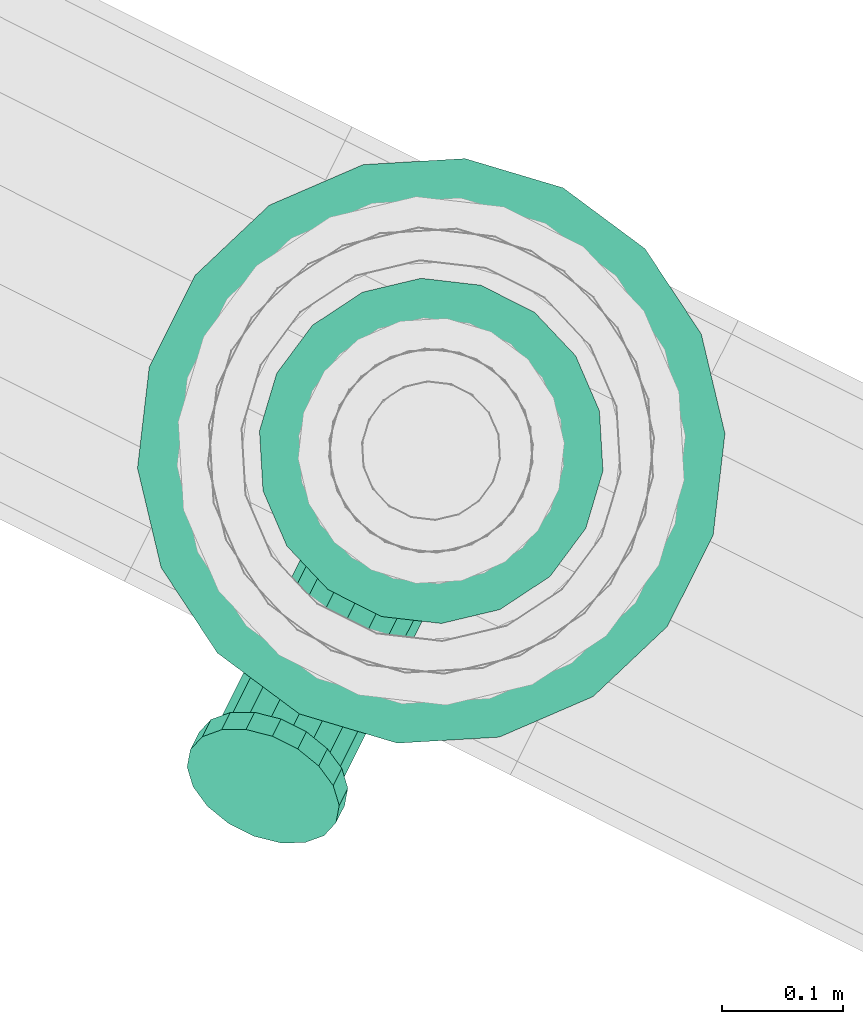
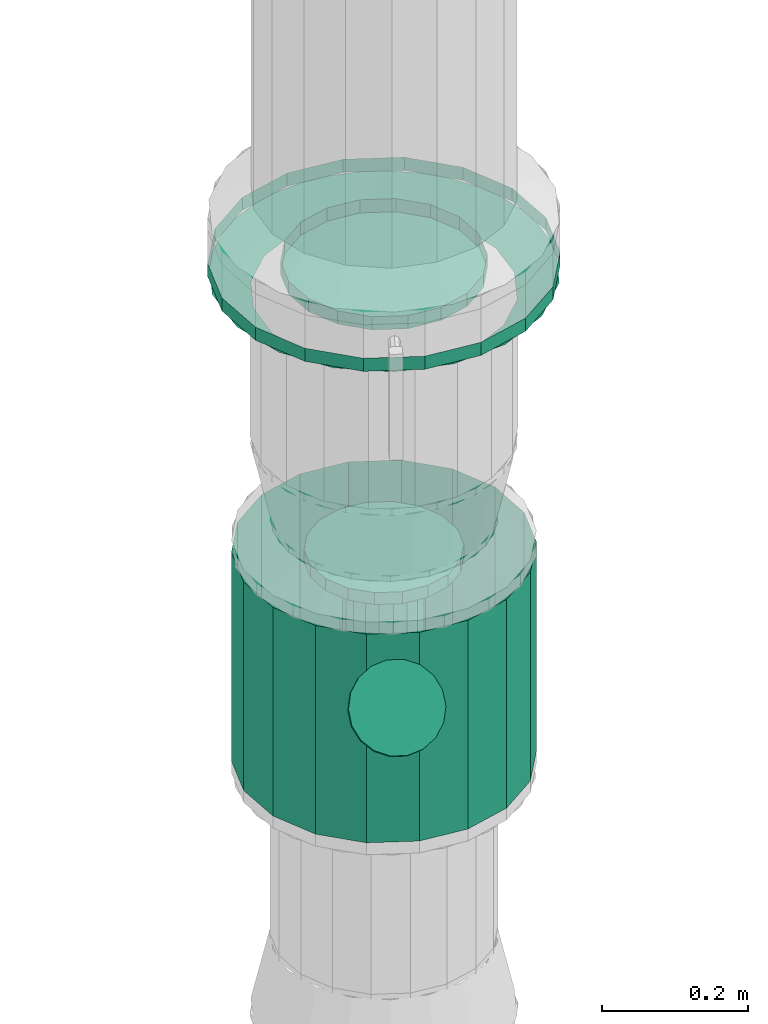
# One storey, part 63 of 152: 1 distribution control element, 1 flow fitting.
"""IFC2X3 building model written with IfcOpenShell, lengths in metres."""

from ifc_helpers import new_model, si_unit, derived_unit, direction, frame, origin, place, context, subcontext, project, spatial, face_set, surface_model, source, transform, mapped, material, type_object, type_shapes, element, save


model = new_model("IFC2X3")

# Units and contexts
model_context = context("Model", 3, precision=5.2338327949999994e-05, world=origin(), true_north=direction((0.0, 1.0)))
body_context = subcontext(model_context, "Body", "Model", "MODEL_VIEW")
ifc_project = project(units=[si_unit("LENGTHUNIT", "METRE"), si_unit("AREAUNIT", "SQUARE_METRE"), si_unit("VOLUMEUNIT", "CUBIC_METRE"), si_unit("MASSUNIT", "GRAM", prefix="KILO"), si_unit("PLANEANGLEUNIT", "RADIAN"), derived_unit("THERMALTRANSMITTANCEUNIT", [(si_unit("MASSUNIT", "GRAM", prefix="KILO"), 1), (si_unit("THERMODYNAMICTEMPERATUREUNIT", "KELVIN"), -1), (si_unit("TIMEUNIT", "SECOND"), -3)])], contexts=[model_context])

# Site, building, storey
site_placement = place(None, frame((0.0, 0.0, 0.0), z_axis=(0.0, 0.0, 1.0), x_axis=(0.8939966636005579, -0.4480736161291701, 0.0)))
site = spatial("IfcSite", under=ifc_project, at=site_placement, Name="Default", CompositionType="ELEMENT")
building_placement = place(site_placement, origin())
building = spatial("IfcBuilding", under=site, at=building_placement, CompositionType="ELEMENT")
storey_placement = place(building_placement, frame((0.0, 0.0, 2.7499999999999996)))
storey = spatial("IfcBuildingStorey", under=building, at=storey_placement, Name="1. Obergeschoss", CompositionType="ELEMENT", Elevation=2.7499999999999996)

# Flow fitting
ifc_material = material(Name="IfcSurfaceStyle #1741")
distribution_element_type_1 = type_object("IfcDistributionElementType", Name="Flansch 614651:Flansch 614651", material=ifc_material)
shared_shape_1 = source(origin(), body_context, "Body", "SurfaceModel", [
    surface_model("IfcFaceBasedSurfaceModel", [(25.58235543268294, 8.459715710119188, 4.349183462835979), (25.573761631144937, 8.410977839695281, 4.349183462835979), (25.573761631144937, 8.410977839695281, 4.327183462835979), (25.58235543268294, 8.459715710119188, 4.327183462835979), (25.549016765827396, 8.368118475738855, 4.349183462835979), (25.549016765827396, 8.368118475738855, 4.327183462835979), (25.511105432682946, 8.336307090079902, 4.349183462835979), (25.511105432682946, 8.336307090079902, 4.327183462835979), (25.46460029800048, 8.319380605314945, 4.349183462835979), (25.46460029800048, 8.319380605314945, 4.327183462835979), (25.415110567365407, 8.319380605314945, 4.349183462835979), (25.415110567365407, 8.319380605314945, 4.327183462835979), (25.36860543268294, 8.336307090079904, 4.349183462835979), (25.36860543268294, 8.336307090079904, 4.327183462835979), (25.33069409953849, 8.368118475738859, 4.349183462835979), (25.33069409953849, 8.368118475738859, 4.327183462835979), (25.30594923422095, 8.410977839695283, 4.349183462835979), (25.30594923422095, 8.410977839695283, 4.327183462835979), (25.29735543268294, 8.45971571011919, 4.349183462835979), (25.29735543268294, 8.45971571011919, 4.327183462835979), (25.30594923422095, 8.508453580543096, 4.349183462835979), (25.30594923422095, 8.508453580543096, 4.327183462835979), (25.33069409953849, 8.551312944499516, 4.349183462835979), (25.33069409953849, 8.551312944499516, 4.327183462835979), (25.368605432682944, 8.583124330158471, 4.349183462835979), (25.368605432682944, 8.583124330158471, 4.327183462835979), (25.41511056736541, 8.600050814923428, 4.349183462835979), (25.41511056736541, 8.600050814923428, 4.327183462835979), (25.464600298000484, 8.600050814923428, 4.349183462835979), (25.464600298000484, 8.600050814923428, 4.327183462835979), (25.511105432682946, 8.583124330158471, 4.349183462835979), (25.511105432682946, 8.583124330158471, 4.327183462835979), (25.549016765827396, 8.551312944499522, 4.349183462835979), (25.549016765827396, 8.551312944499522, 4.327183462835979), (25.57376163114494, 8.508453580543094, 4.349183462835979), (25.57376163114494, 8.508453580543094, 4.327183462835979), (25.439855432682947, 8.459715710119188, 4.327183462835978), (25.43985543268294, 8.36771571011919, 4.327183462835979), (25.408389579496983, 8.373263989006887, 4.327183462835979), (25.41107443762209, 8.380640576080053, 4.29418346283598), (25.439855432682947, 8.375565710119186, 4.29418346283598), (25.38071897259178, 8.38923962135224, 4.327183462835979), (25.38576485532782, 8.395253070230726, 4.29418346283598), (25.360181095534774, 8.413715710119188, 4.327183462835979), (25.36697939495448, 8.41764071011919, 4.29418346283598), (25.349253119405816, 8.443740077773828, 4.327183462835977), (25.356983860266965, 8.445103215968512, 4.294183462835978), (25.349253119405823, 8.475691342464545, 4.32718346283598), (25.356983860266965, 8.474328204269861, 4.2941834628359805), (25.360181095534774, 8.50571571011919, 4.327183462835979), (25.36697939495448, 8.50179071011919, 4.29418346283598), (25.38071897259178, 8.530191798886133, 4.327183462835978), (25.385764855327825, 8.52417835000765, 4.294183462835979), (25.408389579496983, 8.546167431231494, 4.327183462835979), (25.411074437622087, 8.538790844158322, 4.29418346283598), (25.43985543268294, 8.551715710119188, 4.327183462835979), (25.439855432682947, 8.543865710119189, 4.29418346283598), (25.471321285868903, 8.546167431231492, 4.327183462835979), (25.4686364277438, 8.53879084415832, 4.29418346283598), (25.498991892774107, 8.53019179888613, 4.327183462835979), (25.493946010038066, 8.524178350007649, 4.29418346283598), (25.519529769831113, 8.505715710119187, 4.327183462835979), (25.512731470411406, 8.501790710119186, 4.29418346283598), (25.530457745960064, 8.475691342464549, 4.327183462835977), (25.522727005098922, 8.474328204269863, 4.294183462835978), (25.530457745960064, 8.443740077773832, 4.327183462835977), (25.522727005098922, 8.445103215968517, 4.294183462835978), (25.519529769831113, 8.413715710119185, 4.327183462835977), (25.512731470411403, 8.417640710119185, 4.294183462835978), (25.498991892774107, 8.389239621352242, 4.327183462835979), (25.493946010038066, 8.395253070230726, 4.29418346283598), (25.471321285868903, 8.373263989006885, 4.327183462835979), (25.4686364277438, 8.380640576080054, 4.29418346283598), (25.682355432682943, 8.459715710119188, 4.349183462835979), (25.667730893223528, 8.376775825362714, 4.349183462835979), (25.667730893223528, 8.376775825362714, 4.327183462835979), (25.682355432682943, 8.459715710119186, 4.327183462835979), (25.625621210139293, 8.303839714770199, 4.349183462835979), (25.625621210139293, 8.303839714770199, 4.327183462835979), (25.561105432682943, 8.249704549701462, 4.349183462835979), (25.561105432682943, 8.249704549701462, 4.327183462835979), (25.48196511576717, 8.22089983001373, 4.349183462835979), (25.48196511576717, 8.22089983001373, 4.327183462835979), (25.397745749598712, 8.22089983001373, 4.349183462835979), (25.397745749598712, 8.22089983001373, 4.327183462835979), (25.318605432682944, 8.249704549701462, 4.349183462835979), (25.318605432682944, 8.249704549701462, 4.327183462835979), (25.254089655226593, 8.303839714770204, 4.349183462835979), (25.254089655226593, 8.303839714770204, 4.327183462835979), (25.21197997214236, 8.376775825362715, 4.349183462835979), (25.21197997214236, 8.376775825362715, 4.327183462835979), (25.197355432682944, 8.45971571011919, 4.349183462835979), (25.197355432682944, 8.45971571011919, 4.327183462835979), (25.21197997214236, 8.542655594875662, 4.349183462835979), (25.21197997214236, 8.542655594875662, 4.327183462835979), (25.254089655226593, 8.615591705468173, 4.349183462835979), (25.254089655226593, 8.615591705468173, 4.327183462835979), (25.318605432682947, 8.669726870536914, 4.349183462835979), (25.318605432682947, 8.669726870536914, 4.327183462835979), (25.397745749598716, 8.698531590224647, 4.349183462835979), (25.397745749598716, 8.698531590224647, 4.327183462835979), (25.481965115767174, 8.698531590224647, 4.349183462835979), (25.481965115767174, 8.698531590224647, 4.327183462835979), (25.561105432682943, 8.669726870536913, 4.349183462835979), (25.561105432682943, 8.669726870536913, 4.327183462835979), (25.625621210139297, 8.615591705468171, 4.349183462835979), (25.625621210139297, 8.615591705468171, 4.327183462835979), (25.667730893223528, 8.542655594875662, 4.349183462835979), (25.667730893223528, 8.542655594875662, 4.327183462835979), (25.43985543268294, 8.217215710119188, 4.327183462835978), (25.35691554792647, 8.231840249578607, 4.327183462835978), (25.376872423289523, 8.286671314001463, 4.294183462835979), (25.43985543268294, 8.275565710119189, 4.294183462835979), (25.283979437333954, 8.273949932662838, 4.327183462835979), (25.321486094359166, 8.31864862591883, 4.29418346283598), (25.229844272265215, 8.33846571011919, 4.327183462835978), (25.28037685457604, 8.367640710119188, 4.294183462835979), (25.20103955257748, 8.417606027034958, 4.327183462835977), (25.258503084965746, 8.427738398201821, 4.294183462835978), (25.201039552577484, 8.501825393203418, 4.327183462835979), (25.258503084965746, 8.491693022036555, 4.29418346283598), (25.22984427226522, 8.58096571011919, 4.327183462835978), (25.280376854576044, 8.551790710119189, 4.294183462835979), (25.283979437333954, 8.645481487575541, 4.327183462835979), (25.32148609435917, 8.600782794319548, 4.29418346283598), (25.35691554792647, 8.687591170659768, 4.327183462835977), (25.376872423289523, 8.632760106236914, 4.294183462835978), (25.43985543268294, 8.702215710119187, 4.327183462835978), (25.439855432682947, 8.643865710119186, 4.294183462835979), (25.522795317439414, 8.687591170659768, 4.327183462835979), (25.502838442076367, 8.632760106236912, 4.29418346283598), (25.59573142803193, 8.645481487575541, 4.327183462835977), (25.55822477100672, 8.600782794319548, 4.294183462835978), (25.64986659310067, 8.580965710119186, 4.327183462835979), (25.599334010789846, 8.55179071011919, 4.29418346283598), (25.678671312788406, 8.501825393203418, 4.327183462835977), (25.621207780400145, 8.491693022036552, 4.294183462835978), (25.678671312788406, 8.417606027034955, 4.327183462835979), (25.621207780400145, 8.427738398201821, 4.29418346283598), (25.64986659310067, 8.338465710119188, 4.327183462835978), (25.599334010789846, 8.367640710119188, 4.294183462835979), (25.595731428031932, 8.273949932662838, 4.327183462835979), (25.55822477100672, 8.318648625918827, 4.29418346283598), (25.522795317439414, 8.231840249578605, 4.327183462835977), (25.502838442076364, 8.286671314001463, 4.294183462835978)], [face_set([[[0, 1, 2, 3]], [[1, 4, 5, 2]], [[4, 6, 7, 5]], [[6, 8, 9, 7]], [[8, 10, 11, 9]], [[10, 12, 13, 11]], [[12, 14, 15, 13]], [[14, 16, 17, 15]], [[16, 18, 19, 17]], [[18, 20, 21, 19]], [[20, 22, 23, 21]], [[22, 24, 25, 23]], [[24, 26, 27, 25]], [[26, 28, 29, 27]], [[28, 30, 31, 29]], [[30, 32, 33, 31]], [[32, 34, 35, 33]], [[34, 0, 3, 35]], [[36, 35, 3]], [[36, 33, 35]], [[36, 31, 33]], [[36, 29, 31]], [[36, 27, 29]], [[36, 25, 27]], [[36, 23, 25]], [[36, 21, 23]], [[36, 19, 21]], [[36, 17, 19]], [[36, 15, 17]], [[36, 13, 15]], [[36, 11, 13]], [[36, 9, 11]], [[36, 7, 9]], [[36, 5, 7]], [[36, 2, 5]], [[36, 3, 2]], [[37, 38, 39, 40]], [[38, 41, 42, 39]], [[41, 43, 44, 42]], [[43, 45, 46, 44]], [[45, 47, 48, 46]], [[47, 49, 50, 48]], [[49, 51, 52, 50]], [[51, 53, 54, 52]], [[53, 55, 56, 54]], [[55, 57, 58, 56]], [[57, 59, 60, 58]], [[59, 61, 62, 60]], [[61, 63, 64, 62]], [[63, 65, 66, 64]], [[65, 67, 68, 66]], [[67, 69, 70, 68]], [[69, 71, 72, 70]], [[71, 37, 40, 72]], [[73, 74, 75, 76]], [[74, 77, 78, 75]], [[77, 79, 80, 78]], [[79, 81, 82, 80]], [[81, 83, 84, 82]], [[83, 85, 86, 84]], [[85, 87, 88, 86]], [[87, 89, 90, 88]], [[89, 91, 92, 90]], [[91, 93, 94, 92]], [[93, 95, 96, 94]], [[95, 97, 98, 96]], [[97, 99, 100, 98]], [[99, 101, 102, 100]], [[101, 103, 104, 102]], [[103, 105, 106, 104]], [[105, 107, 108, 106]], [[107, 73, 76, 108]], [[109, 110, 111, 112]], [[110, 113, 114, 111]], [[113, 115, 116, 114]], [[115, 117, 118, 116]], [[117, 119, 120, 118]], [[119, 121, 122, 120]], [[121, 123, 124, 122]], [[123, 125, 126, 124]], [[125, 127, 128, 126]], [[127, 129, 130, 128]], [[129, 131, 132, 130]], [[131, 133, 134, 132]], [[133, 135, 136, 134]], [[135, 137, 138, 136]], [[137, 139, 140, 138]], [[139, 141, 142, 140]], [[141, 143, 144, 142]], [[143, 109, 112, 144]]])]),
])
type_shapes(distribution_element_type_1, [shared_shape_1])
flow_fitting_placement = place(storey_placement, frame((0.0, 0.0, -2.7499999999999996)))
element("IfcFlowFitting", 1, at=flow_fitting_placement, inside=storey, type_object=distribution_element_type_1, material=ifc_material, Name="Flansch", ObjectType="Flansch", context=body_context, shape_type="MappedRepresentation", body=[
    mapped(shared_shape_1, transform((0.0, 0.0, 0.0), scale=1.0)),
])

# Distribution control element
distribution_element_type_2 = type_object("IfcDistributionElementType", Name="Zählerpaßstück 614674:Zählerpaßstück 614674", material=ifc_material)
shared_shape_2 = source(origin(), body_context, "Body", "SurfaceModel", [
    surface_model("IfcFaceBasedSurfaceModel", [(25.439855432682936, 8.402565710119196, 3.6892878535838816), (25.42030898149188, 8.406012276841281, 3.6822989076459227), (25.420308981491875, 8.199153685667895, 3.841027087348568), (25.439855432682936, 8.201251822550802, 3.8437614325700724), (25.403120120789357, 8.415936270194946, 3.662175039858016), (25.403120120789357, 8.193112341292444, 3.8331538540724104), (25.390362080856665, 8.431140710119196, 3.63134348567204), (25.390362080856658, 8.18385646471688, 3.821091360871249), (25.383573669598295, 8.449791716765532, 3.5935229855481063), (25.383573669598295, 8.172502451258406, 3.8062945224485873), (25.383573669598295, 8.449791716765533, 3.568505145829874), (25.383573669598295, 8.160419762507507, 3.79054805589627), (25.390362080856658, 8.431140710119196, 3.5593074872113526), (25.390362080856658, 8.149065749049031, 3.7757512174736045), (25.403120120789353, 8.415936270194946, 3.5518094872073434), (25.403120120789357, 8.139809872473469, 3.7636887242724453), (25.42030898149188, 8.406012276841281, 3.5469155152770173), (25.420308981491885, 8.133768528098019, 3.7558154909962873), (25.439855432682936, 8.402565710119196, 3.5452158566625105), (25.439855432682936, 8.131670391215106, 3.753081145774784), (25.459401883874, 8.406012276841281, 3.546915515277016), (25.459401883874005, 8.133768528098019, 3.7558154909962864), (25.476590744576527, 8.415936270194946, 3.5518094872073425), (25.47659074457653, 8.139809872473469, 3.7636887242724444), (25.48934878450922, 8.431140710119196, 3.5593074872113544), (25.489348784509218, 8.149065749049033, 3.7757512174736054), (25.496137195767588, 8.449791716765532, 3.568505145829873), (25.496137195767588, 8.160419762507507, 3.790548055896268), (25.496137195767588, 8.449791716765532, 3.5935229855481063), (25.49613719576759, 8.172502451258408, 3.806294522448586), (25.489348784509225, 8.431140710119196, 3.631343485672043), (25.489348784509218, 8.18385646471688, 3.8210913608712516), (25.47659074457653, 8.415936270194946, 3.662175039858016), (25.47659074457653, 8.193112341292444, 3.8331538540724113), (25.459401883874, 8.406012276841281, 3.682298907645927), (25.459401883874, 8.199153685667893, 3.8410270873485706), (25.54985543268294, 8.459715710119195, 3.5138701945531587), (25.543221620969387, 8.49733792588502, 3.5138701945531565), (25.543221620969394, 8.49733792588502, 3.5338701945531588), (25.549855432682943, 8.459715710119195, 3.5338701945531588), (25.52412032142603, 8.530422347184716, 3.5138701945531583), (25.52412032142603, 8.530422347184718, 3.533870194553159), (25.494855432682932, 8.554978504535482, 3.513870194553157), (25.494855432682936, 8.554978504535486, 3.533870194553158), (25.458956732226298, 8.568044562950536, 3.513870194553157), (25.45895673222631, 8.568044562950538, 3.533870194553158), (25.420754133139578, 8.568044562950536, 3.5138701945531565), (25.420754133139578, 8.568044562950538, 3.5338701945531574), (25.38485543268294, 8.554978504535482, 3.513870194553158), (25.38485543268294, 8.554978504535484, 3.5338701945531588), (25.35559054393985, 8.530422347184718, 3.5138701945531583), (25.355590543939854, 8.530422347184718, 3.533870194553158), (25.33648924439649, 8.497337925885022, 3.513870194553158), (25.336489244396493, 8.497337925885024, 3.5338701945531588), (25.329855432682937, 8.459715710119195, 3.513870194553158), (25.329855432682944, 8.459715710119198, 3.5338701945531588), (25.336489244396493, 8.422093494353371, 3.513870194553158), (25.336489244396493, 8.422093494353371, 3.533870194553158), (25.35559054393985, 8.389009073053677, 3.513870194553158), (25.35559054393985, 8.389009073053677, 3.5338701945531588), (25.384855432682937, 8.364452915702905, 3.5138701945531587), (25.38485543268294, 8.364452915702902, 3.5338701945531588), (25.420754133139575, 8.351386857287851, 3.5138701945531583), (25.420754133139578, 8.351386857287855, 3.533870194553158), (25.458956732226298, 8.351386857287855, 3.5138701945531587), (25.45895673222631, 8.351386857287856, 3.5338701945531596), (25.494855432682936, 8.364452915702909, 3.513870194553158), (25.494855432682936, 8.364452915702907, 3.5338701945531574), (25.524120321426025, 8.389009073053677, 3.513870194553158), (25.52412032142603, 8.389009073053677, 3.533870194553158), (25.543221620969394, 8.42209349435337, 3.513870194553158), (25.543221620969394, 8.422093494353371, 3.5338701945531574), (25.439855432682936, 8.459715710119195, 3.5138701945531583), (25.439855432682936, 8.459715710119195, 3.533870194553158), (25.49700543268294, 8.459715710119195, 3.5338701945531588), (25.49355886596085, 8.479262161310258, 3.5338701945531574), (25.49355886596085, 8.479262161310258, 3.8438701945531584), (25.49700543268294, 8.459715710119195, 3.8438701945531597), (25.48363487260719, 8.496451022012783, 3.5338701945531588), (25.483634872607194, 8.49645102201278, 3.8438701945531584), (25.46843043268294, 8.50920906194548, 3.5338701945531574), (25.468430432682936, 8.509209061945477, 3.843870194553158), (25.449779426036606, 8.515997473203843, 3.5338701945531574), (25.44977942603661, 8.515997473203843, 3.8438701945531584), (25.429931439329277, 8.515997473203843, 3.533870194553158), (25.42993143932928, 8.515997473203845, 3.8438701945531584), (25.41128043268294, 8.50920906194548, 3.533870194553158), (25.41128043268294, 8.509209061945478, 3.8438701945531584), (25.3960759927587, 8.496451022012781, 3.533870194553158), (25.3960759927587, 8.496451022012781, 3.843870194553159), (25.38615199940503, 8.479262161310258, 3.533870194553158), (25.386151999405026, 8.479262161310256, 3.843870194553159), (25.38270543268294, 8.459715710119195, 3.533870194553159), (25.38270543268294, 8.459715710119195, 3.843870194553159), (25.38615199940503, 8.440169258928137, 3.533870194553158), (25.38615199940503, 8.440169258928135, 3.843870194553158), (25.396075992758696, 8.422980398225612, 3.5338701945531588), (25.3960759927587, 8.422980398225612, 3.8438701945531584), (25.411280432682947, 8.410222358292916, 3.5338701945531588), (25.41128043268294, 8.410222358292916, 3.843870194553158), (25.429931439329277, 8.403433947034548, 3.5338701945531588), (25.429931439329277, 8.403433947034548, 3.8438701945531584), (25.449779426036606, 8.40343394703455, 3.5338701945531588), (25.449779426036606, 8.403433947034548, 3.8438701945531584), (25.468430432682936, 8.410222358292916, 3.5338701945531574), (25.468430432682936, 8.410222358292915, 3.8438701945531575), (25.483634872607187, 8.42298039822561, 3.533870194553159), (25.48363487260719, 8.42298039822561, 3.8438701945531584), (25.49355886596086, 8.440169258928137, 3.5338701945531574), (25.49355886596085, 8.440169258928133, 3.8438701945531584), (25.549855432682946, 8.459715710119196, 3.8438701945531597), (25.543221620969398, 8.497337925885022, 3.8438701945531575), (25.543221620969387, 8.49733792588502, 3.863870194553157), (25.54985543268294, 8.459715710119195, 3.863870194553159), (25.52412032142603, 8.530422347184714, 3.8438701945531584), (25.52412032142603, 8.530422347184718, 3.8638701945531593), (25.494855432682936, 8.554978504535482, 3.843870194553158), (25.494855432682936, 8.554978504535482, 3.863870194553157), (25.458956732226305, 8.568044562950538, 3.843870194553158), (25.458956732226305, 8.568044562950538, 3.863870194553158), (25.420754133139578, 8.568044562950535, 3.8438701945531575), (25.420754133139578, 8.568044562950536, 3.863870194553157), (25.38485543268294, 8.554978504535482, 3.8438701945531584), (25.38485543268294, 8.554978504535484, 3.8638701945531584), (25.35559054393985, 8.53042234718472, 3.8438701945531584), (25.355590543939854, 8.53042234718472, 3.8638701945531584), (25.336489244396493, 8.497337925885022, 3.8438701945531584), (25.336489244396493, 8.497337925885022, 3.863870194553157), (25.32985543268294, 8.459715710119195, 3.8438701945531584), (25.32985543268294, 8.459715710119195, 3.8638701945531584), (25.336489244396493, 8.422093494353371, 3.8438701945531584), (25.336489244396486, 8.422093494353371, 3.863870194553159), (25.35559054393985, 8.389009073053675, 3.8438701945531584), (25.35559054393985, 8.389009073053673, 3.8638701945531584), (25.38485543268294, 8.364452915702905, 3.8438701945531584), (25.38485543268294, 8.364452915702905, 3.8638701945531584), (25.420754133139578, 8.351386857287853, 3.843870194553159), (25.420754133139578, 8.351386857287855, 3.863870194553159), (25.458956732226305, 8.351386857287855, 3.8438701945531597), (25.458956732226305, 8.351386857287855, 3.8638701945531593), (25.494855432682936, 8.364452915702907, 3.8438701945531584), (25.494855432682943, 8.364452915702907, 3.8638701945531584), (25.524120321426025, 8.389009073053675, 3.8438701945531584), (25.52412032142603, 8.389009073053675, 3.863870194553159), (25.543221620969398, 8.422093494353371, 3.8438701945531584), (25.543221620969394, 8.422093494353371, 3.8638701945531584), (25.439855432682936, 8.459715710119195, 3.843870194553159), (25.439855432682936, 8.459715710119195, 3.863870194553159), (25.50700543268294, 8.166461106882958, 3.7984212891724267), (25.502955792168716, 8.180442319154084, 3.816641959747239), (25.502955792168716, 8.164575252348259, 3.828817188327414), (25.50700543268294, 8.150594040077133, 3.8105965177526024), (25.491295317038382, 8.192737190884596, 3.8326649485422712), (25.49129531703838, 8.176870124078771, 3.844840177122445), (25.47343043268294, 8.20186277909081, 3.8445576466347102), (25.473430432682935, 8.185995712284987, 3.8567328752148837), (25.451515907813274, 8.206718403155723, 3.850885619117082), (25.451515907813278, 8.190851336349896, 3.863060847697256), (25.428194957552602, 8.206718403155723, 3.8508856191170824), (25.42819495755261, 8.190851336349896, 3.863060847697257), (25.40628043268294, 8.20186277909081, 3.8445576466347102), (25.406280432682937, 8.185995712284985, 3.8567328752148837), (25.388415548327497, 8.192737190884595, 3.8326649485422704), (25.388415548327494, 8.17687012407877, 3.8448401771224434), (25.37675507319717, 8.180442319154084, 3.816641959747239), (25.37675507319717, 8.164575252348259, 3.828817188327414), (25.372705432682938, 8.16646110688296, 3.798421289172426), (25.372705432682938, 8.15059404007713, 3.8105965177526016), (25.37675507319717, 8.15247989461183, 3.780200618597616), (25.376755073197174, 8.136612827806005, 3.79237584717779), (25.388415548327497, 8.140185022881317, 3.764177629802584), (25.388415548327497, 8.124317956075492, 3.776352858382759), (25.40628043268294, 8.131059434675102, 3.752284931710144), (25.40628043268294, 8.115192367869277, 3.7644601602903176), (25.42819495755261, 8.12620381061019, 3.7459569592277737), (25.42819495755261, 8.110336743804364, 3.7581321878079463), (25.451515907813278, 8.12620381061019, 3.745956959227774), (25.451515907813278, 8.110336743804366, 3.7581321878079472), (25.47343043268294, 8.131059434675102, 3.752284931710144), (25.47343043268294, 8.115192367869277, 3.764460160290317), (25.491295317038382, 8.140185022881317, 3.7641776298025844), (25.491295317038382, 8.124317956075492, 3.776352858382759), (25.50295579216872, 8.152479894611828, 3.780200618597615), (25.502955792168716, 8.136612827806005, 3.7923758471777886), (25.439855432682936, 8.16646110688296, 3.7984212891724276), (25.439855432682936, 8.150594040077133, 3.810596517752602), (25.64985543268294, 8.459715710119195, 3.5138701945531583), (25.63719088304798, 8.531539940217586, 3.5138701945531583), (25.63719088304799, 8.531539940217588, 3.863870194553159), (25.649855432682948, 8.459715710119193, 3.863870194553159), (25.600724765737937, 8.594701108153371, 3.5138701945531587), (25.600724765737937, 8.59470110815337, 3.8638701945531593), (25.544855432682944, 8.641581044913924, 3.5138701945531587), (25.544855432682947, 8.641581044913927, 3.8638701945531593), (25.476321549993, 8.66652533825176, 3.5138701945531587), (25.476321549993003, 8.66652533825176, 3.8638701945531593), (25.40338931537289, 8.666525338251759, 3.513870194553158), (25.40338931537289, 8.66652533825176, 3.8638701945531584), (25.334855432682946, 8.641581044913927, 3.5138701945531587), (25.33485543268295, 8.641581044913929, 3.863870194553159), (25.27898609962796, 8.594701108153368, 3.5138701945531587), (25.27898609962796, 8.59470110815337, 3.8638701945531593), (25.2425199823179, 8.531539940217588, 3.513870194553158), (25.242519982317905, 8.531539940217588, 3.8638701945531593), (25.22985543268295, 8.459715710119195, 3.513870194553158), (25.22985543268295, 8.459715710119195, 3.8638701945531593), (25.2425199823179, 8.387891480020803, 3.513870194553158), (25.2425199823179, 8.387891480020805, 3.8638701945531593), (25.27898609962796, 8.32473031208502, 3.5138701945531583), (25.27898609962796, 8.32473031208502, 3.863870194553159), (25.334855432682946, 8.277850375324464, 3.5138701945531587), (25.33485543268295, 8.277850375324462, 3.8638701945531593), (25.40338931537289, 8.252906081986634, 3.513870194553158), (25.40338931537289, 8.252906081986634, 3.863870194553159), (25.476321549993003, 8.252906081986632, 3.5138701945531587), (25.476321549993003, 8.252906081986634, 3.863870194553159), (25.544855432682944, 8.277850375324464, 3.5138701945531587), (25.544855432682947, 8.277850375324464, 3.863870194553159), (25.600724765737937, 8.324730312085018, 3.5138701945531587), (25.60072476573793, 8.32473031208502, 3.863870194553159), (25.637190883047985, 8.387891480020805, 3.513870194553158), (25.637190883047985, 8.387891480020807, 3.8638701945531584)], [face_set([[[0, 1, 2, 3]], [[1, 4, 5, 2]], [[4, 6, 7, 5]], [[6, 8, 9, 7]], [[8, 10, 11, 9]], [[10, 12, 13, 11]], [[12, 14, 15, 13]], [[14, 16, 17, 15]], [[16, 18, 19, 17]], [[18, 20, 21, 19]], [[20, 22, 23, 21]], [[22, 24, 25, 23]], [[24, 26, 27, 25]], [[26, 28, 29, 27]], [[28, 30, 31, 29]], [[30, 32, 33, 31]], [[32, 34, 35, 33]], [[34, 0, 3, 35]], [[36, 37, 38, 39]], [[37, 40, 41, 38]], [[40, 42, 43, 41]], [[42, 44, 45, 43]], [[44, 46, 47, 45]], [[46, 48, 49, 47]], [[48, 50, 51, 49]], [[50, 52, 53, 51]], [[52, 54, 55, 53]], [[54, 56, 57, 55]], [[56, 58, 59, 57]], [[58, 60, 61, 59]], [[60, 62, 63, 61]], [[62, 64, 65, 63]], [[64, 66, 67, 65]], [[66, 68, 69, 67]], [[68, 70, 71, 69]], [[70, 36, 39, 71]], [[72, 37, 36]], [[72, 40, 37]], [[72, 42, 40]], [[72, 44, 42]], [[72, 46, 44]], [[72, 48, 46]], [[72, 50, 48]], [[72, 52, 50]], [[72, 54, 52]], [[72, 56, 54]], [[72, 58, 56]], [[72, 60, 58]], [[72, 62, 60]], [[72, 64, 62]], [[72, 66, 64]], [[72, 68, 66]], [[72, 70, 68]], [[72, 36, 70]], [[73, 71, 39]], [[73, 69, 71]], [[73, 67, 69]], [[73, 65, 67]], [[73, 63, 65]], [[73, 61, 63]], [[73, 59, 61]], [[73, 57, 59]], [[73, 55, 57]], [[73, 53, 55]], [[73, 51, 53]], [[73, 49, 51]], [[73, 47, 49]], [[73, 45, 47]], [[73, 43, 45]], [[73, 41, 43]], [[73, 38, 41]], [[73, 39, 38]], [[74, 75, 76, 77]], [[75, 78, 79, 76]], [[78, 80, 81, 79]], [[80, 82, 83, 81]], [[82, 84, 85, 83]], [[84, 86, 87, 85]], [[86, 88, 89, 87]], [[88, 90, 91, 89]], [[90, 92, 93, 91]], [[92, 94, 95, 93]], [[94, 96, 97, 95]], [[96, 98, 99, 97]], [[98, 100, 101, 99]], [[100, 102, 103, 101]], [[102, 104, 105, 103]], [[104, 106, 107, 105]], [[106, 108, 109, 107]], [[108, 74, 77, 109]], [[110, 111, 112, 113]], [[111, 114, 115, 112]], [[114, 116, 117, 115]], [[116, 118, 119, 117]], [[118, 120, 121, 119]], [[120, 122, 123, 121]], [[122, 124, 125, 123]], [[124, 126, 127, 125]], [[126, 128, 129, 127]], [[128, 130, 131, 129]], [[130, 132, 133, 131]], [[132, 134, 135, 133]], [[134, 136, 137, 135]], [[136, 138, 139, 137]], [[138, 140, 141, 139]], [[140, 142, 143, 141]], [[142, 144, 145, 143]], [[144, 110, 113, 145]], [[146, 111, 110]], [[146, 114, 111]], [[146, 116, 114]], [[146, 118, 116]], [[146, 120, 118]], [[146, 122, 120]], [[146, 124, 122]], [[146, 126, 124]], [[146, 128, 126]], [[146, 130, 128]], [[146, 132, 130]], [[146, 134, 132]], [[146, 136, 134]], [[146, 138, 136]], [[146, 140, 138]], [[146, 142, 140]], [[146, 144, 142]], [[146, 110, 144]], [[147, 145, 113]], [[147, 143, 145]], [[147, 141, 143]], [[147, 139, 141]], [[147, 137, 139]], [[147, 135, 137]], [[147, 133, 135]], [[147, 131, 133]], [[147, 129, 131]], [[147, 127, 129]], [[147, 125, 127]], [[147, 123, 125]], [[147, 121, 123]], [[147, 119, 121]], [[147, 117, 119]], [[147, 115, 117]], [[147, 112, 115]], [[147, 113, 112]], [[148, 149, 150, 151]], [[149, 152, 153, 150]], [[152, 154, 155, 153]], [[154, 156, 157, 155]], [[156, 158, 159, 157]], [[158, 160, 161, 159]], [[160, 162, 163, 161]], [[162, 164, 165, 163]], [[164, 166, 167, 165]], [[166, 168, 169, 167]], [[168, 170, 171, 169]], [[170, 172, 173, 171]], [[172, 174, 175, 173]], [[174, 176, 177, 175]], [[176, 178, 179, 177]], [[178, 180, 181, 179]], [[180, 182, 183, 181]], [[182, 148, 151, 183]], [[184, 149, 148]], [[184, 152, 149]], [[184, 154, 152]], [[184, 156, 154]], [[184, 158, 156]], [[184, 160, 158]], [[184, 162, 160]], [[184, 164, 162]], [[184, 166, 164]], [[184, 168, 166]], [[184, 170, 168]], [[184, 172, 170]], [[184, 174, 172]], [[184, 176, 174]], [[184, 178, 176]], [[184, 180, 178]], [[184, 182, 180]], [[184, 148, 182]], [[185, 183, 151]], [[185, 181, 183]], [[185, 179, 181]], [[185, 177, 179]], [[185, 175, 177]], [[185, 173, 175]], [[185, 171, 173]], [[185, 169, 171]], [[185, 167, 169]], [[185, 165, 167]], [[185, 163, 165]], [[185, 161, 163]], [[185, 159, 161]], [[185, 157, 159]], [[185, 155, 157]], [[185, 153, 155]], [[185, 150, 153]], [[185, 151, 150]], [[186, 187, 188, 189]], [[187, 190, 191, 188]], [[190, 192, 193, 191]], [[192, 194, 195, 193]], [[194, 196, 197, 195]], [[196, 198, 199, 197]], [[198, 200, 201, 199]], [[200, 202, 203, 201]], [[202, 204, 205, 203]], [[204, 206, 207, 205]], [[206, 208, 209, 207]], [[208, 210, 211, 209]], [[210, 212, 213, 211]], [[212, 214, 215, 213]], [[214, 216, 217, 215]], [[216, 218, 219, 217]], [[218, 220, 221, 219]], [[220, 186, 189, 221]]])]),
])
type_shapes(distribution_element_type_2, [shared_shape_2])
distribution_control_element_placement = place(storey_placement, frame((0.0, 0.0, -2.7499999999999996)))
element("IfcDistributionControlElement", 2, at=distribution_control_element_placement, inside=storey, type_object=distribution_element_type_2, material=ifc_material, Name="Zählerpaßstück", ObjectType="Zählerpaßstück", context=body_context, shape_type="MappedRepresentation", body=[
    mapped(shared_shape_2, transform((0.0, 0.0, 0.0), scale=1.0)),
])

save(model, "model.ifc")
